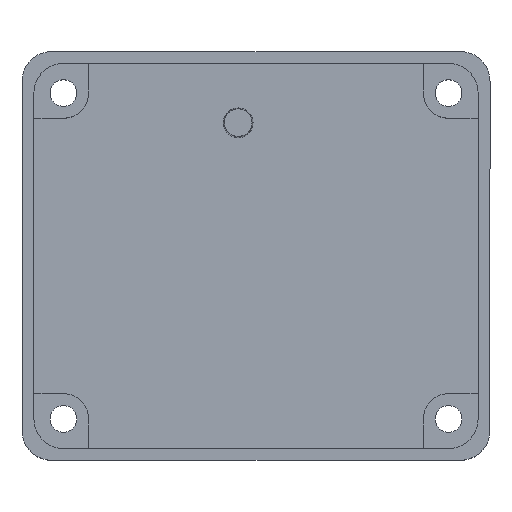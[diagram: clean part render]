
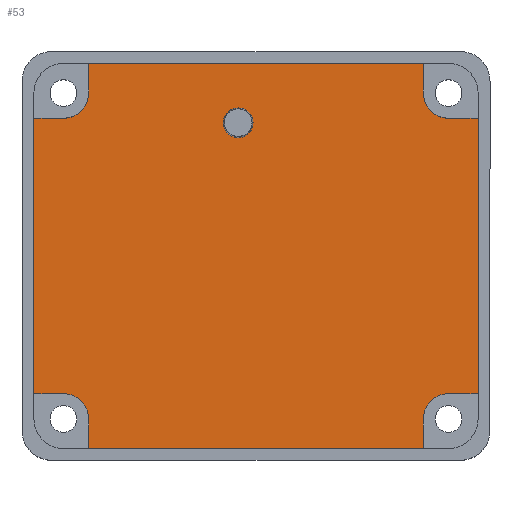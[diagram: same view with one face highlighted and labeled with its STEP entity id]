
A CAD part, top view. The second image highlights one B-rep face of the part: STEP entity #53.
In plain terms, the highlighted planar face has unit normal (0, 0, 1).
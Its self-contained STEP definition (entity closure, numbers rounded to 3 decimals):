
#4 = ORIENTED_EDGE ( 'NONE', *, *, #1673, .F. ) ;
#10 = EDGE_CURVE ( 'NONE', #1260, #1607, #865, .T. ) ;
#45 = VECTOR ( 'NONE', #972, 1000. ) ;
#53 = ADVANCED_FACE ( 'NONE', ( #246, #381 ), #1618, .T. ) ;
#57 = DIRECTION ( 'NONE',  ( 0., 1., 0. ) ) ;
#59 = ORIENTED_EDGE ( 'NONE', *, *, #644, .F. ) ;
#65 = DIRECTION ( 'NONE',  ( 0., 0., 1. ) ) ;
#66 = LINE ( 'NONE', #480, #1355 ) ;
#75 = VERTEX_POINT ( 'NONE', #1719 ) ;
#118 = CARTESIAN_POINT ( 'NONE',  ( 37., 55., -10. ) ) ;
#144 = ORIENTED_EDGE ( 'NONE', *, *, #1185, .T. ) ;
#149 = LINE ( 'NONE', #1249, #583 ) ;
#156 = VERTEX_POINT ( 'NONE', #1602 ) ;
#167 = LINE ( 'NONE', #848, #1646 ) ;
#174 = VERTEX_POINT ( 'NONE', #629 ) ;
#175 = AXIS2_PLACEMENT_3D ( 'NONE', #396, #1756, #536 ) ;
#178 = CARTESIAN_POINT ( 'NONE',  ( 65.75, 5., -10. ) ) ;
#189 = LINE ( 'NONE', #1291, #547 ) ;
#193 = AXIS2_PLACEMENT_3D ( 'NONE', #1584, #65, #1066 ) ;
#194 = LINE ( 'NONE', #1166, #1239 ) ;
#214 = EDGE_CURVE ( 'NONE', #1573, #598, #66, .T. ) ;
#236 = CARTESIAN_POINT ( 'NONE',  ( 5., 5., -10. ) ) ;
#243 = DIRECTION ( 'NONE',  ( 1., 0., 0. ) ) ;
#246 = FACE_BOUND ( 'NONE', #572, .T. ) ;
#266 = EDGE_CURVE ( 'NONE', #392, #323, #839, .T. ) ;
#283 = DIRECTION ( 'NONE',  ( 1., 0., 0. ) ) ;
#286 = DIRECTION ( 'NONE',  ( 0., 0., 1. ) ) ;
#293 = ORIENTED_EDGE ( 'NONE', *, *, #467, .F. ) ;
#299 = ORIENTED_EDGE ( 'NONE', *, *, #1494, .F. ) ;
#323 = VERTEX_POINT ( 'NONE', #1610 ) ;
#330 = LINE ( 'NONE', #903, #1284 ) ;
#346 = CIRCLE ( 'NONE', #193, 2.5 ) ;
#370 = AXIS2_PLACEMENT_3D ( 'NONE', #439, #1486, #283 ) ;
#380 = CARTESIAN_POINT ( 'NONE',  ( 5., 9.25, -10. ) ) ;
#381 = FACE_OUTER_BOUND ( 'NONE', #960, .T. ) ;
#392 = VERTEX_POINT ( 'NONE', #118 ) ;
#396 = CARTESIAN_POINT ( 'NONE',  ( 0., 0., -10. ) ) ;
#397 = ORIENTED_EDGE ( 'NONE', *, *, #1376, .T. ) ;
#409 = EDGE_CURVE ( 'NONE', #1762, #1260, #416, .T. ) ;
#416 = LINE ( 'NONE', #1386, #835 ) ;
#434 = LINE ( 'NONE', #978, #525 ) ;
#439 = CARTESIAN_POINT ( 'NONE',  ( 70., 60., -10. ) ) ;
#441 = EDGE_CURVE ( 'NONE', #625, #447, #434, .T. ) ;
#447 = VERTEX_POINT ( 'NONE', #716 ) ;
#467 = EDGE_CURVE ( 'NONE', #156, #1762, #1151, .T. ) ;
#472 = EDGE_CURVE ( 'NONE', #75, #1573, #149, .T. ) ;
#480 = CARTESIAN_POINT ( 'NONE',  ( 75., 0., -10. ) ) ;
#518 = CARTESIAN_POINT ( 'NONE',  ( 9.25, 60., -10. ) ) ;
#520 = DIRECTION ( 'NONE',  ( 1., 0., 0. ) ) ;
#525 = VECTOR ( 'NONE', #57, 1000. ) ;
#536 = DIRECTION ( 'NONE',  ( 1., 0., 0. ) ) ;
#547 = VECTOR ( 'NONE', #1439, 1000. ) ;
#562 = CARTESIAN_POINT ( 'NONE',  ( 9.25, 0., -10. ) ) ;
#570 = CARTESIAN_POINT ( 'NONE',  ( 65.75, 65., -10. ) ) ;
#572 = EDGE_LOOP ( 'NONE', ( #1560, #59 ) ) ;
#573 = DIRECTION ( 'NONE',  ( 1., 0., 0. ) ) ;
#583 = VECTOR ( 'NONE', #573, 1000. ) ;
#594 = VECTOR ( 'NONE', #904, 1000. ) ;
#598 = VERTEX_POINT ( 'NONE', #757 ) ;
#625 = VERTEX_POINT ( 'NONE', #518 ) ;
#629 = CARTESIAN_POINT ( 'NONE',  ( 0., 9.25, -10. ) ) ;
#632 = ORIENTED_EDGE ( 'NONE', *, *, #441, .F. ) ;
#633 = ORIENTED_EDGE ( 'NONE', *, *, #974, .F. ) ;
#644 = EDGE_CURVE ( 'NONE', #323, #392, #346, .T. ) ;
#697 = EDGE_CURVE ( 'NONE', #750, #625, #1771, .T. ) ;
#716 = CARTESIAN_POINT ( 'NONE',  ( 9.25, 65., -10. ) ) ;
#750 = VERTEX_POINT ( 'NONE', #1359 ) ;
#757 = CARTESIAN_POINT ( 'NONE',  ( 75., 9.25, -10. ) ) ;
#779 = EDGE_CURVE ( 'NONE', #1597, #174, #194, .T. ) ;
#805 = VECTOR ( 'NONE', #1764, 1000. ) ;
#809 = VERTEX_POINT ( 'NONE', #380 ) ;
#826 = CARTESIAN_POINT ( 'NONE',  ( 9.25, 5., -10. ) ) ;
#835 = VECTOR ( 'NONE', #1020, 1000. ) ;
#839 = CIRCLE ( 'NONE', #862, 2.5 ) ;
#848 = CARTESIAN_POINT ( 'NONE',  ( 5., 55.75, -10. ) ) ;
#854 = VERTEX_POINT ( 'NONE', #826 ) ;
#856 = VECTOR ( 'NONE', #1657, 1000. ) ;
#862 = AXIS2_PLACEMENT_3D ( 'NONE', #1059, #1438, #1039 ) ;
#865 = LINE ( 'NONE', #1707, #594 ) ;
#890 = CIRCLE ( 'NONE', #370, 4.25 ) ;
#903 = CARTESIAN_POINT ( 'NONE',  ( 0., 9.25, -10. ) ) ;
#904 = DIRECTION ( 'NONE',  ( -1., 0., 0. ) ) ;
#913 = CARTESIAN_POINT ( 'NONE',  ( 0., 55.75, -10. ) ) ;
#930 = CARTESIAN_POINT ( 'NONE',  ( 9.25, 0., -10. ) ) ;
#944 = CARTESIAN_POINT ( 'NONE',  ( 75., 55.75, -10. ) ) ;
#960 = EDGE_LOOP ( 'NONE', ( #144, #1091, #633, #299, #4, #1549, #1566, #293, #1619, #998, #1037, #1733, #397, #1509, #632, #1220 ) ) ;
#972 = DIRECTION ( 'NONE',  ( 0., 1., 0. ) ) ;
#974 = EDGE_CURVE ( 'NONE', #809, #174, #999, .T. ) ;
#978 = CARTESIAN_POINT ( 'NONE',  ( 9.25, 60., -10. ) ) ;
#979 = DIRECTION ( 'NONE',  ( -1., 0., 0. ) ) ;
#998 = ORIENTED_EDGE ( 'NONE', *, *, #214, .F. ) ;
#999 = LINE ( 'NONE', #1251, #856 ) ;
#1002 = DIRECTION ( 'NONE',  ( -1., 0., 0. ) ) ;
#1010 = AXIS2_PLACEMENT_3D ( 'NONE', #1189, #1736, #243 ) ;
#1020 = DIRECTION ( 'NONE',  ( 0., -1., 0. ) ) ;
#1037 = ORIENTED_EDGE ( 'NONE', *, *, #472, .F. ) ;
#1039 = DIRECTION ( 'NONE',  ( 1., 0., 0. ) ) ;
#1059 = CARTESIAN_POINT ( 'NONE',  ( 34.5, 55., -10. ) ) ;
#1066 = DIRECTION ( 'NONE',  ( 1., 0., 0. ) ) ;
#1080 = EDGE_CURVE ( 'NONE', #1724, #447, #1448, .T. ) ;
#1091 = ORIENTED_EDGE ( 'NONE', *, *, #779, .T. ) ;
#1151 = CIRCLE ( 'NONE', #1181, 4.25 ) ;
#1166 = CARTESIAN_POINT ( 'NONE',  ( 0., 0., -10. ) ) ;
#1177 = AXIS2_PLACEMENT_3D ( 'NONE', #236, #1212, #520 ) ;
#1181 = AXIS2_PLACEMENT_3D ( 'NONE', #1643, #286, #1256 ) ;
#1185 = EDGE_CURVE ( 'NONE', #750, #1597, #167, .T. ) ;
#1189 = CARTESIAN_POINT ( 'NONE',  ( 5., 60., -10. ) ) ;
#1212 = DIRECTION ( 'NONE',  ( 0., 0., 1. ) ) ;
#1220 = ORIENTED_EDGE ( 'NONE', *, *, #697, .F. ) ;
#1239 = VECTOR ( 'NONE', #1701, 1000. ) ;
#1249 = CARTESIAN_POINT ( 'NONE',  ( 0., 55.75, -10. ) ) ;
#1251 = CARTESIAN_POINT ( 'NONE',  ( 0., 9.25, -10. ) ) ;
#1256 = DIRECTION ( 'NONE',  ( 1., 0., 0. ) ) ;
#1260 = VERTEX_POINT ( 'NONE', #1691 ) ;
#1284 = VECTOR ( 'NONE', #1002, 1000. ) ;
#1291 = CARTESIAN_POINT ( 'NONE',  ( 65.75, 0., -10. ) ) ;
#1310 = CARTESIAN_POINT ( 'NONE',  ( 0., 65., -10. ) ) ;
#1355 = VECTOR ( 'NONE', #1576, 1000. ) ;
#1359 = CARTESIAN_POINT ( 'NONE',  ( 5., 55.75, -10. ) ) ;
#1362 = EDGE_CURVE ( 'NONE', #598, #156, #330, .T. ) ;
#1376 = EDGE_CURVE ( 'NONE', #1745, #1724, #189, .T. ) ;
#1386 = CARTESIAN_POINT ( 'NONE',  ( 65.75, 0., -10. ) ) ;
#1438 = DIRECTION ( 'NONE',  ( 0., 0., 1. ) ) ;
#1439 = DIRECTION ( 'NONE',  ( 0., 1., 0. ) ) ;
#1448 = LINE ( 'NONE', #1310, #805 ) ;
#1485 = CIRCLE ( 'NONE', #1177, 4.25 ) ;
#1486 = DIRECTION ( 'NONE',  ( 0., 0., 1. ) ) ;
#1494 = EDGE_CURVE ( 'NONE', #854, #809, #1485, .T. ) ;
#1509 = ORIENTED_EDGE ( 'NONE', *, *, #1080, .T. ) ;
#1549 = ORIENTED_EDGE ( 'NONE', *, *, #10, .F. ) ;
#1560 = ORIENTED_EDGE ( 'NONE', *, *, #266, .F. ) ;
#1566 = ORIENTED_EDGE ( 'NONE', *, *, #409, .F. ) ;
#1573 = VERTEX_POINT ( 'NONE', #944 ) ;
#1576 = DIRECTION ( 'NONE',  ( 0., -1., 0. ) ) ;
#1584 = CARTESIAN_POINT ( 'NONE',  ( 34.5, 55., -10. ) ) ;
#1597 = VERTEX_POINT ( 'NONE', #913 ) ;
#1602 = CARTESIAN_POINT ( 'NONE',  ( 70., 9.25, -10. ) ) ;
#1607 = VERTEX_POINT ( 'NONE', #930 ) ;
#1610 = CARTESIAN_POINT ( 'NONE',  ( 32., 55., -10. ) ) ;
#1618 = PLANE ( 'NONE',  #175 ) ;
#1619 = ORIENTED_EDGE ( 'NONE', *, *, #1362, .F. ) ;
#1634 = CARTESIAN_POINT ( 'NONE',  ( 65.75, 60., -10. ) ) ;
#1643 = CARTESIAN_POINT ( 'NONE',  ( 70., 5., -10. ) ) ;
#1646 = VECTOR ( 'NONE', #979, 1000. ) ;
#1657 = DIRECTION ( 'NONE',  ( -1., 0., 0. ) ) ;
#1659 = LINE ( 'NONE', #562, #45 ) ;
#1673 = EDGE_CURVE ( 'NONE', #1607, #854, #1659, .T. ) ;
#1691 = CARTESIAN_POINT ( 'NONE',  ( 65.75, 0., -10. ) ) ;
#1701 = DIRECTION ( 'NONE',  ( 0., -1., 0. ) ) ;
#1706 = EDGE_CURVE ( 'NONE', #1745, #75, #890, .T. ) ;
#1707 = CARTESIAN_POINT ( 'NONE',  ( 0., 0., -10. ) ) ;
#1719 = CARTESIAN_POINT ( 'NONE',  ( 70., 55.75, -10. ) ) ;
#1724 = VERTEX_POINT ( 'NONE', #570 ) ;
#1733 = ORIENTED_EDGE ( 'NONE', *, *, #1706, .F. ) ;
#1736 = DIRECTION ( 'NONE',  ( 0., 0., 1. ) ) ;
#1745 = VERTEX_POINT ( 'NONE', #1634 ) ;
#1756 = DIRECTION ( 'NONE',  ( 0., 0., 1. ) ) ;
#1762 = VERTEX_POINT ( 'NONE', #178 ) ;
#1764 = DIRECTION ( 'NONE',  ( -1., 0., 0. ) ) ;
#1771 = CIRCLE ( 'NONE', #1010, 4.25 ) ;
